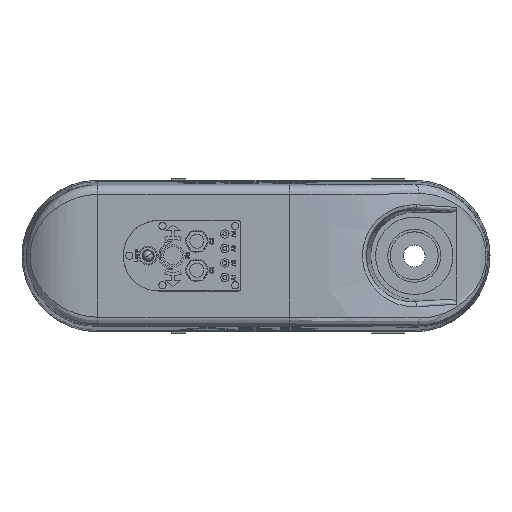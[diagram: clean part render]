
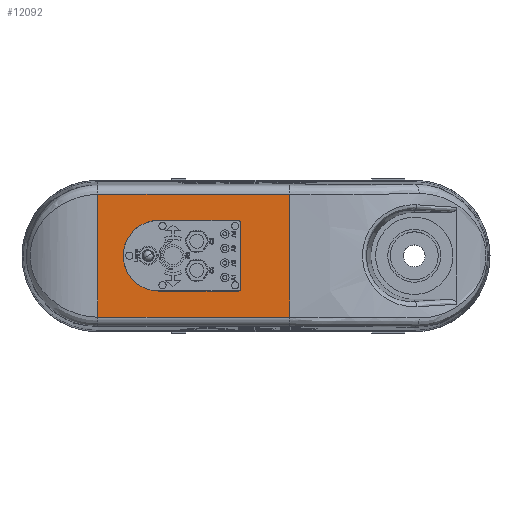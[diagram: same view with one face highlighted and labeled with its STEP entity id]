
A CAD part, top view. The second image highlights one B-rep face of the part: STEP entity #12092.
In plain terms, the highlighted planar face has unit normal (0, 0, 1).
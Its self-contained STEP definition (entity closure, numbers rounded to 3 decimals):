
#150 = VECTOR ( 'NONE', #34469, 1000. ) ;
#404 = LINE ( 'NONE', #33989, #1302 ) ;
#434 = LINE ( 'NONE', #37886, #24037 ) ;
#540 = EDGE_CURVE ( 'NONE', #21559, #30388, #20423, .T. ) ;
#807 = CARTESIAN_POINT ( 'NONE',  ( 430., -59.156, 457.7 ) ) ;
#990 = CARTESIAN_POINT ( 'NONE',  ( 382.5, 32.001, 457.7 ) ) ;
#1302 = VECTOR ( 'NONE', #6692, 1000. ) ;
#2241 =( BOUNDED_CURVE ( )  B_SPLINE_CURVE ( 3, ( #36264, #21118, #8752, #27573 ),
 .UNSPECIFIED., .F., .T. ) 
 B_SPLINE_CURVE_WITH_KNOTS ( ( 4, 4 ),
 ( 2.357, 3.927 ),
 .UNSPECIFIED. ) 
 CURVE ( )  GEOMETRIC_REPRESENTATION_ITEM ( )  RATIONAL_B_SPLINE_CURVE ( ( 1., 0.805, 0.805, 1. ) ) 
 REPRESENTATION_ITEM ( '' )  );
#2323 = CARTESIAN_POINT ( 'NONE',  ( 382.5, 33.172, 457.7 ) ) ;
#2470 = VERTEX_POINT ( 'NONE', #21967 ) ;
#2541 = EDGE_LOOP ( 'NONE', ( #7307, #34978, #12307, #7170 ) ) ;
#2815 = CARTESIAN_POINT ( 'NONE',  ( 245., 0., 457.7 ) ) ;
#2861 = VERTEX_POINT ( 'NONE', #807 ) ;
#4610 = VECTOR ( 'NONE', #19326, 1000. ) ;
#6692 = DIRECTION ( 'NONE',  ( 0., 1., 0. ) ) ;
#6915 = ORIENTED_EDGE ( 'NONE', *, *, #8042, .T. ) ;
#7170 = ORIENTED_EDGE ( 'NONE', *, *, #36568, .T. ) ;
#7307 = ORIENTED_EDGE ( 'NONE', *, *, #25764, .T. ) ;
#7815 = CARTESIAN_POINT ( 'NONE',  ( 380.501, 34., 457.7 ) ) ;
#8042 = EDGE_CURVE ( 'NONE', #21559, #35567, #2241, .T. ) ;
#8078 = CARTESIAN_POINT ( 'NONE',  ( 303.5, 0., 457.7 ) ) ;
#8752 = CARTESIAN_POINT ( 'NONE',  ( 381.672, -34., 457.7 ) ) ;
#11289 = DIRECTION ( 'NONE',  ( 0., 1., 0. ) ) ;
#12092 = ADVANCED_FACE ( 'NONE', ( #18020, #14768 ), #36406, .T. ) ;
#12255 = CIRCLE ( 'NONE', #38755, 34. ) ;
#12307 = ORIENTED_EDGE ( 'NONE', *, *, #39297, .F. ) ;
#14482 = CARTESIAN_POINT ( 'NONE',  ( 381.672, 34., 457.7 ) ) ;
#14768 = FACE_OUTER_BOUND ( 'NONE', #2541, .T. ) ;
#15030 = CARTESIAN_POINT ( 'NONE',  ( 245., -59.156, 457.7 ) ) ;
#15228 = CARTESIAN_POINT ( 'NONE',  ( 380.501, -34., 457.7 ) ) ;
#15370 = DIRECTION ( 'NONE',  ( 0., 0., 1. ) ) ;
#15672 = CARTESIAN_POINT ( 'NONE',  ( 382.5, 34., 457.7 ) ) ;
#16116 = LINE ( 'NONE', #37758, #21429 ) ;
#16488 = CARTESIAN_POINT ( 'NONE',  ( 430., -59.156, 457.7 ) ) ;
#16839 = LINE ( 'NONE', #15672, #4610 ) ;
#16940 = CARTESIAN_POINT ( 'NONE',  ( 303.5, 34., 457.7 ) ) ;
#16972 = ORIENTED_EDGE ( 'NONE', *, *, #540, .F. ) ;
#17091 = VERTEX_POINT ( 'NONE', #31893 ) ;
#17411 = DIRECTION ( 'NONE',  ( 0., 1., 0. ) ) ;
#17936 = ORIENTED_EDGE ( 'NONE', *, *, #34662, .F. ) ;
#18020 = FACE_BOUND ( 'NONE', #32017, .T. ) ;
#18961 = CARTESIAN_POINT ( 'NONE',  ( 380.501, 34., 457.7 ) ) ;
#18983 = EDGE_CURVE ( 'NONE', #31743, #2470, #16116, .T. ) ;
#19326 = DIRECTION ( 'NONE',  ( -1., 0., 0. ) ) ;
#19935 = VERTEX_POINT ( 'NONE', #16940 ) ;
#20423 = LINE ( 'NONE', #26674, #20879 ) ;
#20879 = VECTOR ( 'NONE', #11289, 1000. ) ;
#21118 = CARTESIAN_POINT ( 'NONE',  ( 382.5, -33.172, 457.7 ) ) ;
#21429 = VECTOR ( 'NONE', #27838, 1000. ) ;
#21559 = VERTEX_POINT ( 'NONE', #24479 ) ;
#21967 = CARTESIAN_POINT ( 'NONE',  ( 245., 59.156, 457.7 ) ) ;
#22360 = VECTOR ( 'NONE', #39788, 1000. ) ;
#22387 = VERTEX_POINT ( 'NONE', #15030 ) ;
#24037 = VECTOR ( 'NONE', #25547, 1000. ) ;
#24479 = CARTESIAN_POINT ( 'NONE',  ( 382.5, -32.001, 457.7 ) ) ;
#25010 = CARTESIAN_POINT ( 'NONE',  ( 245., -705.242, 457.7 ) ) ;
#25547 = DIRECTION ( 'NONE',  ( 1., 0., 0. ) ) ;
#25764 = EDGE_CURVE ( 'NONE', #2861, #31743, #404, .T. ) ;
#26043 = EDGE_CURVE ( 'NONE', #19935, #17091, #12255, .T. ) ;
#26185 = ORIENTED_EDGE ( 'NONE', *, *, #26043, .F. ) ;
#26674 = CARTESIAN_POINT ( 'NONE',  ( 382.5, 34., 457.7 ) ) ;
#26816 = CARTESIAN_POINT ( 'NONE',  ( 382.5, 32.001, 457.7 ) ) ;
#27573 = CARTESIAN_POINT ( 'NONE',  ( 380.501, -34., 457.7 ) ) ;
#27838 = DIRECTION ( 'NONE',  ( -1., 0., 0. ) ) ;
#28055 = LINE ( 'NONE', #25010, #22360 ) ;
#28214 = VERTEX_POINT ( 'NONE', #18961 ) ;
#28618 = LINE ( 'NONE', #16488, #150 ) ;
#30388 = VERTEX_POINT ( 'NONE', #990 ) ;
#31191 =( BOUNDED_CURVE ( )  B_SPLINE_CURVE ( 3, ( #7815, #14482, #2323, #26816 ),
 .UNSPECIFIED., .F., .F. ) 
 B_SPLINE_CURVE_WITH_KNOTS ( ( 4, 4 ),
 ( 2.357, 3.927 ),
 .UNSPECIFIED. ) 
 CURVE ( )  GEOMETRIC_REPRESENTATION_ITEM ( )  RATIONAL_B_SPLINE_CURVE ( ( 1., 0.805, 0.805, 1. ) ) 
 REPRESENTATION_ITEM ( '' )  );
#31743 = VERTEX_POINT ( 'NONE', #32309 ) ;
#31893 = CARTESIAN_POINT ( 'NONE',  ( 303.5, -34., 457.7 ) ) ;
#32017 = EDGE_LOOP ( 'NONE', ( #17936, #35110, #16972, #6915, #33034, #26185 ) ) ;
#32309 = CARTESIAN_POINT ( 'NONE',  ( 430., 59.156, 457.7 ) ) ;
#32767 = DIRECTION ( 'NONE',  ( 0., 0., 1. ) ) ;
#33034 = ORIENTED_EDGE ( 'NONE', *, *, #35732, .F. ) ;
#33989 = CARTESIAN_POINT ( 'NONE',  ( 430., -705.455, 457.7 ) ) ;
#34469 = DIRECTION ( 'NONE',  ( 1., 0., 0. ) ) ;
#34662 = EDGE_CURVE ( 'NONE', #28214, #19935, #16839, .T. ) ;
#34978 = ORIENTED_EDGE ( 'NONE', *, *, #18983, .T. ) ;
#35110 = ORIENTED_EDGE ( 'NONE', *, *, #35273, .T. ) ;
#35273 = EDGE_CURVE ( 'NONE', #28214, #30388, #31191, .T. ) ;
#35514 = AXIS2_PLACEMENT_3D ( 'NONE', #2815, #15370, #39453 ) ;
#35567 = VERTEX_POINT ( 'NONE', #15228 ) ;
#35732 = EDGE_CURVE ( 'NONE', #17091, #35567, #434, .T. ) ;
#36264 = CARTESIAN_POINT ( 'NONE',  ( 382.5, -32.001, 457.7 ) ) ;
#36406 = PLANE ( 'NONE',  #35514 ) ;
#36568 = EDGE_CURVE ( 'NONE', #22387, #2861, #28618, .T. ) ;
#37758 = CARTESIAN_POINT ( 'NONE',  ( 245., 59.156, 457.7 ) ) ;
#37886 = CARTESIAN_POINT ( 'NONE',  ( 382.5, -34., 457.7 ) ) ;
#38755 = AXIS2_PLACEMENT_3D ( 'NONE', #8078, #32767, #17411 ) ;
#39297 = EDGE_CURVE ( 'NONE', #22387, #2470, #28055, .T. ) ;
#39453 = DIRECTION ( 'NONE',  ( 1., 0., 0. ) ) ;
#39788 = DIRECTION ( 'NONE',  ( 0., 1., 0. ) ) ;
